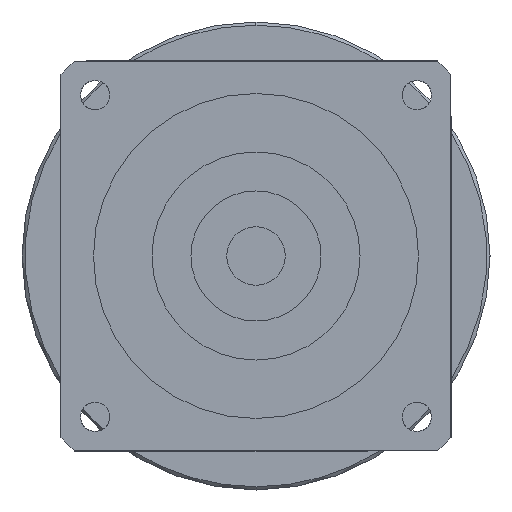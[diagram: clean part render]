
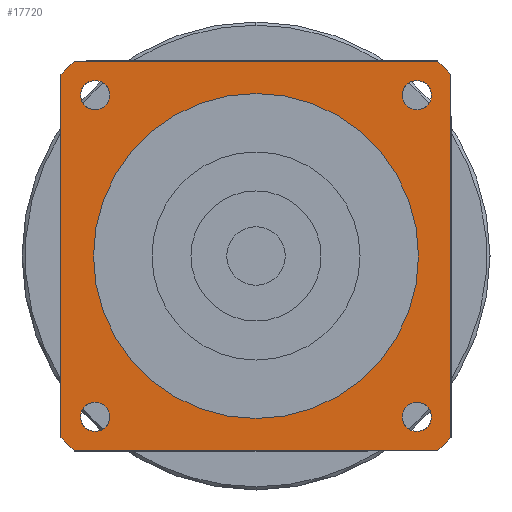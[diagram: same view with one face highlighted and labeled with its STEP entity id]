
A CAD part, left-side view. The second image highlights one B-rep face of the part: STEP entity #17720.
In plain terms, the highlighted planar face has unit normal (-1, 0, 0) as drawn and (0, 0, -1) by its records, which use the part's own axes.
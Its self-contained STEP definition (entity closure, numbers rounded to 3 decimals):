
#12210=CARTESIAN_POINT('',(27.946,30.,-97.5));
#12220=VERTEX_POINT('',#12210);
#12250=CARTESIAN_POINT('',(0.,0.,
-97.5));
#12260=DIRECTION('',(0.,0.,1.));
#12270=DIRECTION('',(0.,-1.,0.));
#12280=AXIS2_PLACEMENT_3D('',#12250,#12260,#12270);
#12290=CIRCLE('',#12280,41.);
#12300=CARTESIAN_POINT('',(30.,27.946,-97.5));
#12310=VERTEX_POINT('',#12300);
#12320=EDGE_CURVE('',#12310,#12220,#12290,.T.);
#12630=CARTESIAN_POINT('',(-30.,27.946,-97.5));
#12640=VERTEX_POINT('',#12630);
#12820=CARTESIAN_POINT('',(-30.,-27.946,-97.5));
#12830=VERTEX_POINT('',#12820);
#12860=CARTESIAN_POINT('',(-30.,30.,-97.5));
#12870=DIRECTION('',(0.,-1.,0.));
#12880=VECTOR('',#12870,1000.);
#12890=LINE('',#12860,#12880);
#12900=EDGE_CURVE('',#12640,#12830,#12890,.T.);
#15260=CARTESIAN_POINT('',(-27.946,-30.,-97.5));
#15270=VERTEX_POINT('',#15260);
#15300=CARTESIAN_POINT('',(0.,0.,
-97.5));
#15310=DIRECTION('',(0.,0.,1.));
#15320=DIRECTION('',(0.,-1.,0.));
#15330=AXIS2_PLACEMENT_3D('',#15300,#15310,#15320);
#15340=CIRCLE('',#15330,41.);
#15350=EDGE_CURVE('',#12830,#15270,#15340,.T.);
#15840=CARTESIAN_POINT('',(27.946,-30.,-97.5));
#15850=VERTEX_POINT('',#15840);
#15930=CARTESIAN_POINT('',(30.,-27.946,-97.5));
#15940=VERTEX_POINT('',#15930);
#15970=CARTESIAN_POINT('',(0.,0.,
-97.5));
#15980=DIRECTION('',(0.,0.,1.));
#15990=DIRECTION('',(0.,-1.,0.));
#16000=AXIS2_PLACEMENT_3D('',#15970,#15980,#15990);
#16010=CIRCLE('',#16000,41.);
#16020=EDGE_CURVE('',#15850,#15940,#16010,.T.);
#16160=CARTESIAN_POINT('',(22.499,24.749,-97.5));
#16170=VERTEX_POINT('',#16160);
#16340=CARTESIAN_POINT('',(26.999,24.749,-97.5));
#16350=VERTEX_POINT('',#16340);
#16380=CARTESIAN_POINT('',(24.749,24.749,-97.5));
#16390=DIRECTION('',(0.,0.,-1.));
#16400=DIRECTION('',(0.,1.,0.));
#16410=AXIS2_PLACEMENT_3D('',#16380,#16390,#16400);
#16420=CIRCLE('',#16410,2.25);
#16430=CARTESIAN_POINT('',(24.749,26.999,-97.5));
#16440=VERTEX_POINT('',#16430);
#16450=EDGE_CURVE('',#16440,#16350,#16420,.T.);
#16470=EDGE_CURVE('',#16170,#16440,#16420,.T.);
#16520=CARTESIAN_POINT('',(-30.,30.,-97.5));
#16530=DIRECTION('',(0.,0.,1.));
#16540=DIRECTION('',(-1.,0.,0.));
#16550=AXIS2_PLACEMENT_3D('',#16520,#16530,#16540);
#16560=PLANE('',#16550);
#16570=CARTESIAN_POINT('',(24.749,-24.749,-97.5));
#16580=DIRECTION('',(0.,0.,-1.));
#16590=DIRECTION('',(1.,0.,0.));
#16600=AXIS2_PLACEMENT_3D('',#16570,#16580,#16590);
#16610=CIRCLE('',#16600,2.25);
#16620=CARTESIAN_POINT('',(26.999,-24.749,-97.5));
#16630=VERTEX_POINT('',#16620);
#16640=CARTESIAN_POINT('',(24.749,-26.999,-97.5));
#16650=VERTEX_POINT('',#16640);
#16660=EDGE_CURVE('',#16630,#16650,#16610,.T.);
#16670=ORIENTED_EDGE('',*,*,#16660,.F.);
#16680=CARTESIAN_POINT('',(24.749,-22.499,-97.5));
#16690=VERTEX_POINT('',#16680);
#16700=EDGE_CURVE('',#16650,#16690,#16610,.T.);
#16710=ORIENTED_EDGE('',*,*,#16700,.F.);
#16720=EDGE_CURVE('',#16690,#16630,#16610,.T.);
#16730=ORIENTED_EDGE('',*,*,#16720,.F.);
#16740=EDGE_LOOP('',(#16730,#16710,#16670));
#16750=FACE_BOUND('',#16740,.T.);
#16760=ORIENTED_EDGE('',*,*,#16450,.F.);
#16770=EDGE_CURVE('',#16350,#16170,#16420,.T.);
#16780=ORIENTED_EDGE('',*,*,#16770,.F.);
#16790=ORIENTED_EDGE('',*,*,#16470,.F.);
#16800=EDGE_LOOP('',(#16790,#16780,#16760));
#16810=FACE_BOUND('',#16800,.T.);
#16820=CARTESIAN_POINT('',(-24.749,24.749,-97.5));
#16830=DIRECTION('',(0.,0.,-1.));
#16840=DIRECTION('',(-1.,0.,0.));
#16850=AXIS2_PLACEMENT_3D('',#16820,#16830,#16840);
#16860=CIRCLE('',#16850,2.25);
#16870=CARTESIAN_POINT('',(-26.999,24.749,-97.5));
#16880=VERTEX_POINT('',#16870);
#16890=CARTESIAN_POINT('',(-24.749,26.999,-97.5));
#16900=VERTEX_POINT('',#16890);
#16910=EDGE_CURVE('',#16880,#16900,#16860,.T.);
#16920=ORIENTED_EDGE('',*,*,#16910,.F.);
#16930=CARTESIAN_POINT('',(-24.749,22.499,-97.5));
#16940=VERTEX_POINT('',#16930);
#16950=EDGE_CURVE('',#16900,#16940,#16860,.T.);
#16960=ORIENTED_EDGE('',*,*,#16950,.F.);
#16970=EDGE_CURVE('',#16940,#16880,#16860,.T.);
#16980=ORIENTED_EDGE('',*,*,#16970,.F.);
#16990=EDGE_LOOP('',(#16980,#16960,#16920));
#17000=FACE_BOUND('',#16990,.T.);
#17010=CARTESIAN_POINT('',(-24.749,-24.749,-97.5));
#17020=DIRECTION('',(0.,0.,-1.));
#17030=DIRECTION('',(0.,-1.,0.));
#17040=AXIS2_PLACEMENT_3D('',#17010,#17020,#17030);
#17050=CIRCLE('',#17040,2.25);
#17060=CARTESIAN_POINT('',(-24.749,-26.999,-97.5));
#17070=VERTEX_POINT('',#17060);
#17080=CARTESIAN_POINT('',(-26.999,-24.749,-97.5));
#17090=VERTEX_POINT('',#17080);
#17100=EDGE_CURVE('',#17070,#17090,#17050,.T.);
#17110=ORIENTED_EDGE('',*,*,#17100,.F.);
#17120=CARTESIAN_POINT('',(-22.499,-24.749,-97.5));
#17130=VERTEX_POINT('',#17120);
#17140=EDGE_CURVE('',#17090,#17130,#17050,.T.);
#17150=ORIENTED_EDGE('',*,*,#17140,.F.);
#17160=EDGE_CURVE('',#17130,#17070,#17050,.T.);
#17170=ORIENTED_EDGE('',*,*,#17160,.F.);
#17180=EDGE_LOOP('',(#17170,#17150,#17110));
#17190=FACE_BOUND('',#17180,.T.);
#17200=ORIENTED_EDGE('',*,*,#15350,.F.);
#17210=CARTESIAN_POINT('',(-30.,-30.,-97.5));
#17220=DIRECTION('',(1.,0.,0.));
#17230=VECTOR('',#17220,1000.);
#17240=LINE('',#17210,#17230);
#17250=EDGE_CURVE('',#15270,#15850,#17240,.T.);
#17260=ORIENTED_EDGE('',*,*,#17250,.F.);
#17270=ORIENTED_EDGE('',*,*,#16020,.F.);
#17280=CARTESIAN_POINT('',(30.,-30.,-97.5));
#17290=DIRECTION('',(0.,1.,0.));
#17300=VECTOR('',#17290,1000.);
#17310=LINE('',#17280,#17300);
#17320=EDGE_CURVE('',#15940,#12310,#17310,.T.);
#17330=ORIENTED_EDGE('',*,*,#17320,.F.);
#17340=ORIENTED_EDGE('',*,*,#12320,.F.);
#17350=CARTESIAN_POINT('',(30.,30.,-97.5));
#17360=DIRECTION('',(-1.,0.,0.));
#17370=VECTOR('',#17360,1000.);
#17380=LINE('',#17350,#17370);
#17390=CARTESIAN_POINT('',(-27.946,30.,-97.5));
#17400=VERTEX_POINT('',#17390);
#17410=EDGE_CURVE('',#12220,#17400,#17380,.T.);
#17420=ORIENTED_EDGE('',*,*,#17410,.F.);
#17430=CARTESIAN_POINT('',(0.,0.,
-97.5));
#17440=DIRECTION('',(0.,0.,1.));
#17450=DIRECTION('',(0.,-1.,0.));
#17460=AXIS2_PLACEMENT_3D('',#17430,#17440,#17450);
#17470=CIRCLE('',#17460,41.);
#17480=EDGE_CURVE('',#17400,#12640,#17470,.T.);
#17490=ORIENTED_EDGE('',*,*,#17480,.F.);
#17500=ORIENTED_EDGE('',*,*,#12900,.F.);
#17510=EDGE_LOOP('',(#17500,#17490,#17420,#17340,#17330,#17270,#17260,
#17200));
#17520=FACE_OUTER_BOUND('',#17510,.T.);
#17530=CARTESIAN_POINT('',(0.,0.,
-97.5));
#17540=DIRECTION('',(0.,0.,1.));
#17550=DIRECTION('',(0.,-1.,0.));
#17560=AXIS2_PLACEMENT_3D('',#17530,#17540,#17550);
#17570=CIRCLE('',#17560,25.);
#17580=CARTESIAN_POINT('',(25.,0.,-97.5));
#17590=VERTEX_POINT('',#17580);
#17600=CARTESIAN_POINT('',(-25.,0.,-97.5));
#17610=VERTEX_POINT('',#17600);
#17620=EDGE_CURVE('',#17590,#17610,#17570,.T.);
#17630=ORIENTED_EDGE('',*,*,#17620,.T.);
#17640=CARTESIAN_POINT('',(0.,-25.,-97.5));
#17650=VERTEX_POINT('',#17640);
#17660=EDGE_CURVE('',#17650,#17590,#17570,.T.);
#17670=ORIENTED_EDGE('',*,*,#17660,.T.);
#17680=EDGE_CURVE('',#17610,#17650,#17570,.T.);
#17690=ORIENTED_EDGE('',*,*,#17680,.T.);
#17700=EDGE_LOOP('',(#17690,#17670,#17630));
#17710=FACE_BOUND('',#17700,.T.);
#17720=ADVANCED_FACE('',(#16750,#16810,#17000,#17190,#17520,#17710),
#16560,.F.);
